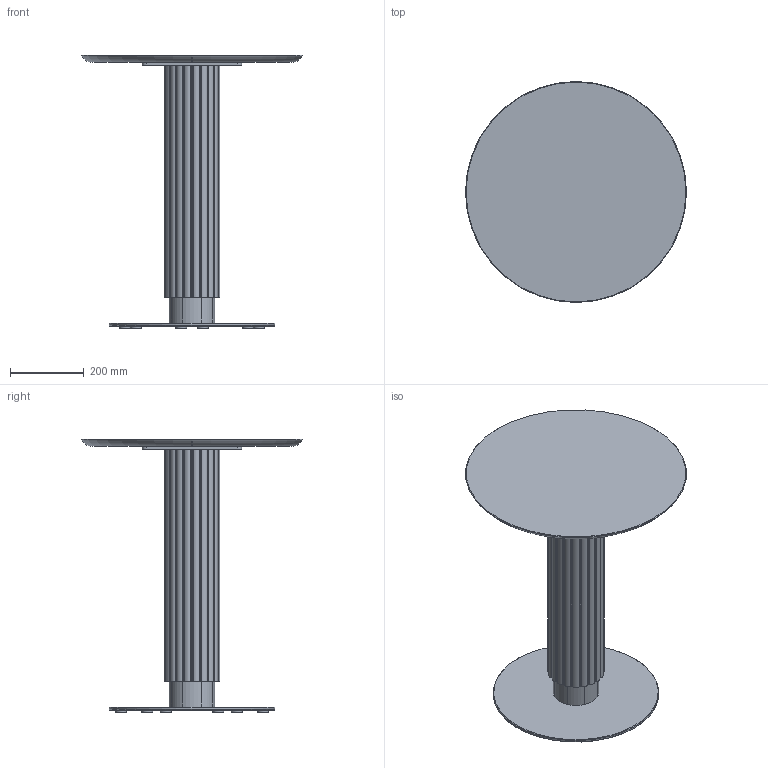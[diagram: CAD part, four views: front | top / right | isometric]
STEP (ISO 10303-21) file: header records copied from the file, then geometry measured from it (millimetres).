
FILE_DESCRIPTION( ('This file contains a STEP AP42 implementation' ,'as created by ZW3D STEP Interface translator.') ,'2;1' );
FILE_NAME( 'God - B_Rond - F1 - M3 - 600 x 600 x 750.stp' ,'24 912.113218', (''), ('ZWCAD Software Co.'), 'Version 1.0', 'ZW3D to STEP translator', '' );
FILE_SCHEMA(('AUTOMOTIVE_DESIGN { 1 0 10303 214 1 1 1 1 }'));
Length unit declared in the file: millimetre
Products named in the file (15): 0; PIED BISTROT PARAMETRIQUE_; SOCLE ACIER C Ø450 V.02_; SCL-D450-02_; PLA-R30A-01_; PLA-R30A-01; CROIX ACIER 370 V.02_; CRX-X370-02_; COLONNE ACIER Ø48.5 V.02_; TUB-D048-02_; PLA-R48A-01_; Colonne GODRON H700_; WUERTH 0276063020 Euro-screw 6.3x2 Verzinkt_; PLATEAU BISTROT PARAMETRIQUE_; insert_m6_13_
Assembly tree (25 placements, depth 3):
  0
  PIED BISTROT PARAMETRIQUE_
    SOCLE ACIER C Ø450 V.02_
      SCL-D450-02_
      PLA-R30A-01_
      PLA-R30A-01  x5
    CROIX ACIER 370 V.02_
      CRX-X370-02_
    COLONNE ACIER Ø48.5 V.02_
      TUB-D048-02_
      PLA-R48A-01_  x2
    Colonne GODRON H700_
    WUERTH 0276063020 Euro-screw 6.3x2 Verzinkt_
    PLATEAU BISTROT PARAMETRIQUE_
      insert_m6_13_  x8
Bounding box: 600 x 600 x 744 mm (x, y, z)
Volume: 17713495.6 mm3; surface area: 2330216.4 mm2
Topology: 29 solids, 29 shells, 656 faces, 1625 edges, 1042 vertices
Faces by surface type: plane 290, cylinder 197, bspline 121, cone 43, torus 5
Full cylindrical faces by diameter (mm): 4.88 x1, 6 x8, 6.3 x1, 8 x47, 12 x2, 14 x2, 30 x6, 44.5 x3, 48.5 x1, 450 x1
Entity records: 16242 total; most frequent: CARTESIAN_POINT 4039, DIRECTION 2257, ORIENTED_EDGE 2240, EDGE_CURVE 1120, AXIS2_PLACEMENT_3D 808, VERTEX_POINT 728, VECTOR 641, LINE 641
